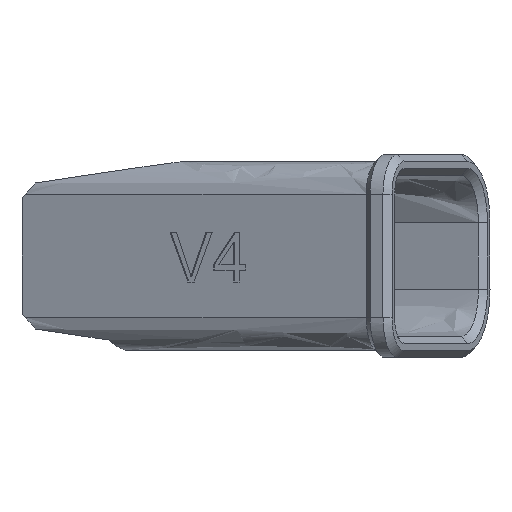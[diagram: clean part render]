
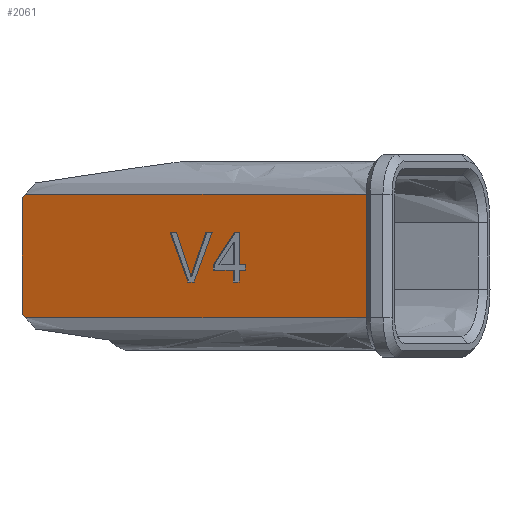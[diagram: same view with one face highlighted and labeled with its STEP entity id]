
A CAD part, left-side view. The second image highlights one B-rep face of the part: STEP entity #2061.
In plain terms, the highlighted planar face has unit normal (-0.926, 0.376, 0).
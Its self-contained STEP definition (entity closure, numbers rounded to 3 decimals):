
#16=FACE_BOUND('',#305,.T.);
#17=FACE_BOUND('',#306,.T.);
#79=PLANE('',#2218);
#178=FACE_OUTER_BOUND('',#304,.T.);
#304=EDGE_LOOP('',(#1570,#1571,#1572,#1573,#1574,#1575));
#305=EDGE_LOOP('',(#1576,#1577,#1578,#1579,#1580,#1581,#1582,#1583,#1584,
#1585,#1586));
#306=EDGE_LOOP('',(#1587,#1588,#1589,#1590,#1591,#1592,#1593,#1594,#1595));
#438=LINE('',#3708,#650);
#456=LINE('',#3775,#668);
#458=LINE('',#3779,#670);
#459=LINE('',#3781,#671);
#460=LINE('',#3783,#672);
#461=LINE('',#3784,#673);
#462=LINE('',#3787,#674);
#463=LINE('',#3789,#675);
#464=LINE('',#3791,#676);
#465=LINE('',#3793,#677);
#466=LINE('',#3795,#678);
#467=LINE('',#3797,#679);
#468=LINE('',#3799,#680);
#469=LINE('',#3801,#681);
#470=LINE('',#3803,#682);
#471=LINE('',#3805,#683);
#472=LINE('',#3806,#684);
#473=LINE('',#3809,#685);
#474=LINE('',#3811,#686);
#475=LINE('',#3813,#687);
#476=LINE('',#3815,#688);
#477=LINE('',#3817,#689);
#478=LINE('',#3831,#690);
#479=LINE('',#3832,#691);
#650=VECTOR('',#2436,10.);
#668=VECTOR('',#2458,10.);
#670=VECTOR('',#2462,10.);
#671=VECTOR('',#2463,10.);
#672=VECTOR('',#2464,10.);
#673=VECTOR('',#2465,10.);
#674=VECTOR('',#2466,10.);
#675=VECTOR('',#2467,10.);
#676=VECTOR('',#2468,10.);
#677=VECTOR('',#2469,10.);
#678=VECTOR('',#2470,10.);
#679=VECTOR('',#2471,10.);
#680=VECTOR('',#2472,10.);
#681=VECTOR('',#2473,10.);
#682=VECTOR('',#2474,10.);
#683=VECTOR('',#2475,10.);
#684=VECTOR('',#2476,10.);
#685=VECTOR('',#2477,10.);
#686=VECTOR('',#2478,10.);
#687=VECTOR('',#2479,10.);
#688=VECTOR('',#2480,10.);
#689=VECTOR('',#2481,10.);
#690=VECTOR('',#2482,10.);
#691=VECTOR('',#2483,10.);
#845=B_SPLINE_CURVE_WITH_KNOTS('',3,(#3819,#3820,#3821,#3822,#3823),
 .UNSPECIFIED.,.F.,.F.,(4,1,4),(0.,0.064,0.123),
 .UNSPECIFIED.);
#846=B_SPLINE_CURVE_WITH_KNOTS('',3,(#3825,#3826,#3827,#3828,#3829),
 .UNSPECIFIED.,.F.,.F.,(4,1,4),(0.,0.061,0.123),
 .UNSPECIFIED.);
#945=VERTEX_POINT('',#3706);
#946=VERTEX_POINT('',#3707);
#963=VERTEX_POINT('',#3774);
#964=VERTEX_POINT('',#3778);
#965=VERTEX_POINT('',#3780);
#966=VERTEX_POINT('',#3782);
#967=VERTEX_POINT('',#3785);
#968=VERTEX_POINT('',#3786);
#969=VERTEX_POINT('',#3788);
#970=VERTEX_POINT('',#3790);
#971=VERTEX_POINT('',#3792);
#972=VERTEX_POINT('',#3794);
#973=VERTEX_POINT('',#3796);
#974=VERTEX_POINT('',#3798);
#975=VERTEX_POINT('',#3800);
#976=VERTEX_POINT('',#3802);
#977=VERTEX_POINT('',#3804);
#978=VERTEX_POINT('',#3807);
#979=VERTEX_POINT('',#3808);
#980=VERTEX_POINT('',#3810);
#981=VERTEX_POINT('',#3812);
#982=VERTEX_POINT('',#3814);
#983=VERTEX_POINT('',#3816);
#984=VERTEX_POINT('',#3818);
#985=VERTEX_POINT('',#3824);
#986=VERTEX_POINT('',#3830);
#1166=EDGE_CURVE('',#945,#946,#438,.T.);
#1187=EDGE_CURVE('',#946,#963,#456,.T.);
#1189=EDGE_CURVE('',#964,#945,#458,.T.);
#1190=EDGE_CURVE('',#964,#965,#459,.T.);
#1191=EDGE_CURVE('',#965,#966,#460,.T.);
#1192=EDGE_CURVE('',#963,#966,#461,.T.);
#1193=EDGE_CURVE('',#967,#968,#462,.T.);
#1194=EDGE_CURVE('',#968,#969,#463,.T.);
#1195=EDGE_CURVE('',#969,#970,#464,.T.);
#1196=EDGE_CURVE('',#970,#971,#465,.T.);
#1197=EDGE_CURVE('',#971,#972,#466,.T.);
#1198=EDGE_CURVE('',#972,#973,#467,.T.);
#1199=EDGE_CURVE('',#973,#974,#468,.T.);
#1200=EDGE_CURVE('',#974,#975,#469,.T.);
#1201=EDGE_CURVE('',#975,#976,#470,.T.);
#1202=EDGE_CURVE('',#976,#977,#471,.T.);
#1203=EDGE_CURVE('',#977,#967,#472,.T.);
#1204=EDGE_CURVE('',#978,#979,#473,.T.);
#1205=EDGE_CURVE('',#979,#980,#474,.T.);
#1206=EDGE_CURVE('',#980,#981,#475,.T.);
#1207=EDGE_CURVE('',#981,#982,#476,.T.);
#1208=EDGE_CURVE('',#982,#983,#477,.T.);
#1209=EDGE_CURVE('',#983,#984,#845,.T.);
#1210=EDGE_CURVE('',#984,#985,#846,.T.);
#1211=EDGE_CURVE('',#985,#986,#478,.T.);
#1212=EDGE_CURVE('',#986,#978,#479,.T.);
#1570=ORIENTED_EDGE('',*,*,#1166,.F.);
#1571=ORIENTED_EDGE('',*,*,#1189,.F.);
#1572=ORIENTED_EDGE('',*,*,#1190,.T.);
#1573=ORIENTED_EDGE('',*,*,#1191,.T.);
#1574=ORIENTED_EDGE('',*,*,#1192,.F.);
#1575=ORIENTED_EDGE('',*,*,#1187,.F.);
#1576=ORIENTED_EDGE('',*,*,#1193,.T.);
#1577=ORIENTED_EDGE('',*,*,#1194,.T.);
#1578=ORIENTED_EDGE('',*,*,#1195,.T.);
#1579=ORIENTED_EDGE('',*,*,#1196,.T.);
#1580=ORIENTED_EDGE('',*,*,#1197,.T.);
#1581=ORIENTED_EDGE('',*,*,#1198,.T.);
#1582=ORIENTED_EDGE('',*,*,#1199,.T.);
#1583=ORIENTED_EDGE('',*,*,#1200,.T.);
#1584=ORIENTED_EDGE('',*,*,#1201,.T.);
#1585=ORIENTED_EDGE('',*,*,#1202,.T.);
#1586=ORIENTED_EDGE('',*,*,#1203,.T.);
#1587=ORIENTED_EDGE('',*,*,#1204,.T.);
#1588=ORIENTED_EDGE('',*,*,#1205,.T.);
#1589=ORIENTED_EDGE('',*,*,#1206,.T.);
#1590=ORIENTED_EDGE('',*,*,#1207,.T.);
#1591=ORIENTED_EDGE('',*,*,#1208,.T.);
#1592=ORIENTED_EDGE('',*,*,#1209,.T.);
#1593=ORIENTED_EDGE('',*,*,#1210,.T.);
#1594=ORIENTED_EDGE('',*,*,#1211,.T.);
#1595=ORIENTED_EDGE('',*,*,#1212,.T.);
#2061=ADVANCED_FACE('',(#178,#16,#17),#79,.T.);
#2218=AXIS2_PLACEMENT_3D('',#3777,#2460,#2461);
#2436=DIRECTION('',(0.25,0.617,0.746));
#2458=DIRECTION('',(0.,0.,1.));
#2460=DIRECTION('center_axis',(-0.927,0.376,0.));
#2461=DIRECTION('ref_axis',(0.,0.,
1.));
#2462=DIRECTION('',(0.376,0.927,0.));
#2463=DIRECTION('',(0.,0.,1.));
#2464=DIRECTION('',(0.376,0.927,0.));
#2465=DIRECTION('',(-0.25,-0.617,0.746));
#2466=DIRECTION('',(0.,0.,-1.));
#2467=DIRECTION('',(0.376,0.927,0.));
#2468=DIRECTION('',(0.,0.,1.));
#2469=DIRECTION('',(0.376,0.927,0.));
#2470=DIRECTION('',(0.,0.,1.));
#2471=DIRECTION('',(-0.217,-0.533,0.818));
#2472=DIRECTION('',(-0.376,-0.927,0.));
#2473=DIRECTION('',(0.,0.,-1.));
#2474=DIRECTION('',(-0.376,-0.927,0.));
#2475=DIRECTION('',(0.,0.,-1.));
#2476=DIRECTION('',(0.376,0.927,0.));
#2477=DIRECTION('',(0.137,0.338,-0.931));
#2478=DIRECTION('',(0.376,0.927,0.));
#2479=DIRECTION('',(0.136,0.335,0.932));
#2480=DIRECTION('',(-0.376,-0.927,0.));
#2481=DIRECTION('',(-0.127,-0.312,-0.942));
#2482=DIRECTION('',(-0.131,-0.323,0.937));
#2483=DIRECTION('',(-0.376,-0.927,0.));
#3706=CARTESIAN_POINT('',(60.87,114.124,-8.774));
#3707=CARTESIAN_POINT('',(61.085,114.653,-8.133));
#3708=CARTESIAN_POINT('',(58.146,107.414,-16.889));
#3774=CARTESIAN_POINT('',(61.085,114.653,8.348));
#3775=CARTESIAN_POINT('',(61.085,114.653,-1.099));
#3777=CARTESIAN_POINT('Origin',(45.069,75.209,-8.774));
#3778=CARTESIAN_POINT('',(40.93,65.017,-8.774));
#3779=CARTESIAN_POINT('',(45.069,75.209,-8.774));
#3780=CARTESIAN_POINT('',(40.93,65.017,8.989));
#3781=CARTESIAN_POINT('',(40.93,65.017,-4.333));
#3782=CARTESIAN_POINT('',(60.87,114.124,8.989));
#3783=CARTESIAN_POINT('',(45.069,75.209,8.989));
#3784=CARTESIAN_POINT('',(59.738,111.335,12.361));
#3785=CARTESIAN_POINT('',(48.381,83.366,-1.928));
#3786=CARTESIAN_POINT('',(48.381,83.366,-3.642));
#3787=CARTESIAN_POINT('',(48.381,83.366,-5.351));
#3788=CARTESIAN_POINT('',(48.712,84.181,-3.642));
#3789=CARTESIAN_POINT('',(46.725,79.288,-3.642));
#3790=CARTESIAN_POINT('',(48.712,84.181,-1.928));
#3791=CARTESIAN_POINT('',(48.712,84.181,-6.208));
#3792=CARTESIAN_POINT('',(49.88,87.058,-1.928));
#3793=CARTESIAN_POINT('',(46.89,79.695,-1.928));
#3794=CARTESIAN_POINT('',(49.88,87.058,-1.122));
#3795=CARTESIAN_POINT('',(49.88,87.058,-5.351));
#3796=CARTESIAN_POINT('',(48.651,84.031,3.516));
#3797=CARTESIAN_POINT('',(49.76,86.763,-0.67));
#3798=CARTESIAN_POINT('',(48.381,83.366,3.516));
#3799=CARTESIAN_POINT('',(46.86,79.62,3.516));
#3800=CARTESIAN_POINT('',(48.381,83.366,-1.122));
#3801=CARTESIAN_POINT('',(48.381,83.366,-2.629));
#3802=CARTESIAN_POINT('',(48.017,82.471,-1.122));
#3803=CARTESIAN_POINT('',(46.725,79.288,-1.122));
#3804=CARTESIAN_POINT('',(48.017,82.471,-1.928));
#3805=CARTESIAN_POINT('',(48.017,82.471,-4.948));
#3806=CARTESIAN_POINT('',(46.543,78.84,-1.928));
#3807=CARTESIAN_POINT('',(49.957,87.248,3.516));
#3808=CARTESIAN_POINT('',(51.012,89.845,-3.642));
#3809=CARTESIAN_POINT('',(50.417,88.381,0.394));
#3810=CARTESIAN_POINT('',(51.377,90.745,-3.642));
#3811=CARTESIAN_POINT('',(48.04,82.527,-3.642));
#3812=CARTESIAN_POINT('',(52.421,93.315,3.516));
#3813=CARTESIAN_POINT('',(50.64,88.93,-8.697));
#3814=CARTESIAN_POINT('',(52.035,92.365,3.516));
#3815=CARTESIAN_POINT('',(48.745,84.262,3.516));
#3816=CARTESIAN_POINT('',(51.335,90.641,-1.684));
#3817=CARTESIAN_POINT('',(50.907,89.586,-4.868));
#3818=CARTESIAN_POINT('',(51.194,90.293,-2.856));
#3819=CARTESIAN_POINT('Ctrl Pts',(51.335,90.641,-1.684));
#3820=CARTESIAN_POINT('Ctrl Pts',(51.308,90.576,-1.885));
#3821=CARTESIAN_POINT('Ctrl Pts',(51.257,90.449,-2.272));
#3822=CARTESIAN_POINT('Ctrl Pts',(51.214,90.344,-2.667));
#3823=CARTESIAN_POINT('Ctrl Pts',(51.194,90.293,-2.856));
#3824=CARTESIAN_POINT('',(51.048,89.935,-1.684));
#3825=CARTESIAN_POINT('Ctrl Pts',(51.194,90.293,-2.856));
#3826=CARTESIAN_POINT('Ctrl Pts',(51.172,90.239,-2.66));
#3827=CARTESIAN_POINT('Ctrl Pts',(51.128,90.131,-2.265));
#3828=CARTESIAN_POINT('Ctrl Pts',(51.075,90.001,-1.879));
#3829=CARTESIAN_POINT('Ctrl Pts',(51.048,89.935,-1.684));
#3830=CARTESIAN_POINT('',(50.321,88.144,3.516));
#3831=CARTESIAN_POINT('',(51.121,90.114,-2.202));
#3832=CARTESIAN_POINT('',(47.695,81.676,3.516));
